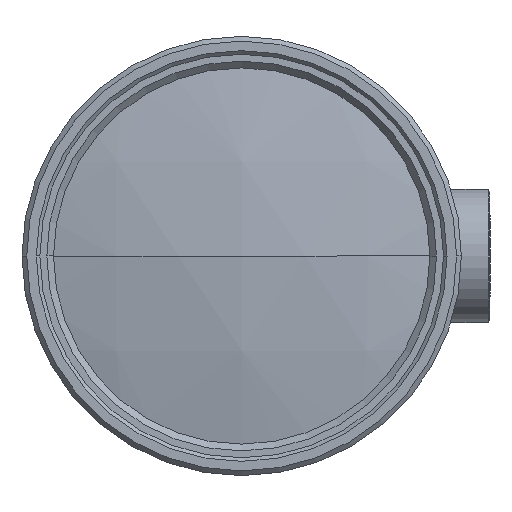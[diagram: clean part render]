
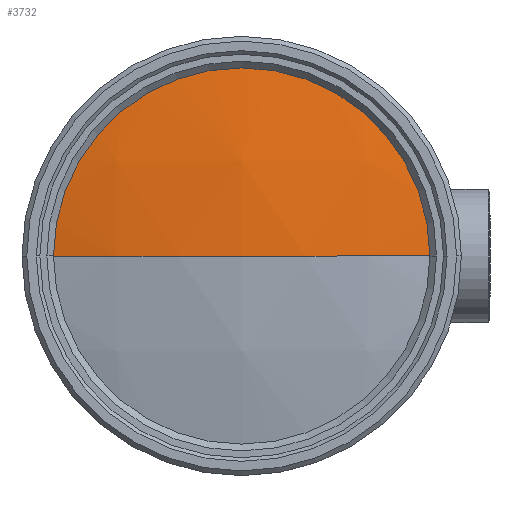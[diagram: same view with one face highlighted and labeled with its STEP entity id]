
A CAD part, left-side view. The second image highlights one B-rep face of the part: STEP entity #3732.
In plain terms, the highlighted spherical face has radius 88.5 mm.
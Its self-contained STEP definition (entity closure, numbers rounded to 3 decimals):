
#301 = DIRECTION ( 'NONE',  ( 0., 1., 0. ) ) ;
#498 = EDGE_CURVE ( 'NONE', #5022, #1437, #2947, .T. ) ;
#623 = CARTESIAN_POINT ( 'NONE',  ( -142.94, 19.7, 0. ) ) ;
#933 = SPHERICAL_SURFACE ( 'NONE', #4748, 88.5 ) ;
#1018 = ORIENTED_EDGE ( 'NONE', *, *, #498, .T. ) ;
#1183 = DIRECTION ( 'NONE',  ( 0., 0., -1. ) ) ;
#1437 = VERTEX_POINT ( 'NONE', #2263 ) ;
#2118 = DIRECTION ( 'NONE',  ( 1., 0., 0. ) ) ;
#2173 = AXIS2_PLACEMENT_3D ( 'NONE', #4784, #2118, #5211 ) ;
#2263 = CARTESIAN_POINT ( 'NONE',  ( -142.94, -19.7, 0. ) ) ;
#2495 = ORIENTED_EDGE ( 'NONE', *, *, #2722, .F. ) ;
#2722 = EDGE_CURVE ( 'NONE', #5022, #4416, #4973, .T. ) ;
#2879 = EDGE_LOOP ( 'NONE', ( #2495, #1018, #5341 ) ) ;
#2947 = CIRCLE ( 'NONE', #4947, 88.5 ) ;
#3027 = CIRCLE ( 'NONE', #2173, 19.7 ) ;
#3311 = FACE_OUTER_BOUND ( 'NONE', #2879, .T. ) ;
#3400 = CARTESIAN_POINT ( 'NONE',  ( -56.66, 0., 0. ) ) ;
#3732 = ADVANCED_FACE ( 'NONE', ( #3311 ), #933, .T. ) ;
#3773 = EDGE_CURVE ( 'NONE', #4416, #1437, #3027, .T. ) ;
#3847 = DIRECTION ( 'NONE',  ( 0., 0., 1. ) ) ;
#3869 = CARTESIAN_POINT ( 'NONE',  ( -56.66, 0., 0. ) ) ;
#3932 = DIRECTION ( 'NONE',  ( 0., -1., 0. ) ) ;
#3953 = DIRECTION ( 'NONE',  ( 0., 0., 1. ) ) ;
#4017 = CARTESIAN_POINT ( 'NONE',  ( -145.16, 0., 0. ) ) ;
#4199 = CARTESIAN_POINT ( 'NONE',  ( -56.66, 0., 0. ) ) ;
#4317 = DIRECTION ( 'NONE',  ( -1., 0., 0. ) ) ;
#4416 = VERTEX_POINT ( 'NONE', #623 ) ;
#4748 = AXIS2_PLACEMENT_3D ( 'NONE', #3400, #3847, #301 ) ;
#4784 = CARTESIAN_POINT ( 'NONE',  ( -142.94, 0., 0. ) ) ;
#4947 = AXIS2_PLACEMENT_3D ( 'NONE', #4199, #3953, #3932 ) ;
#4973 = CIRCLE ( 'NONE', #5298, 88.5 ) ;
#5022 = VERTEX_POINT ( 'NONE', #4017 ) ;
#5211 = DIRECTION ( 'NONE',  ( 0., 1., 0. ) ) ;
#5298 = AXIS2_PLACEMENT_3D ( 'NONE', #3869, #1183, #4317 ) ;
#5341 = ORIENTED_EDGE ( 'NONE', *, *, #3773, .F. ) ;
